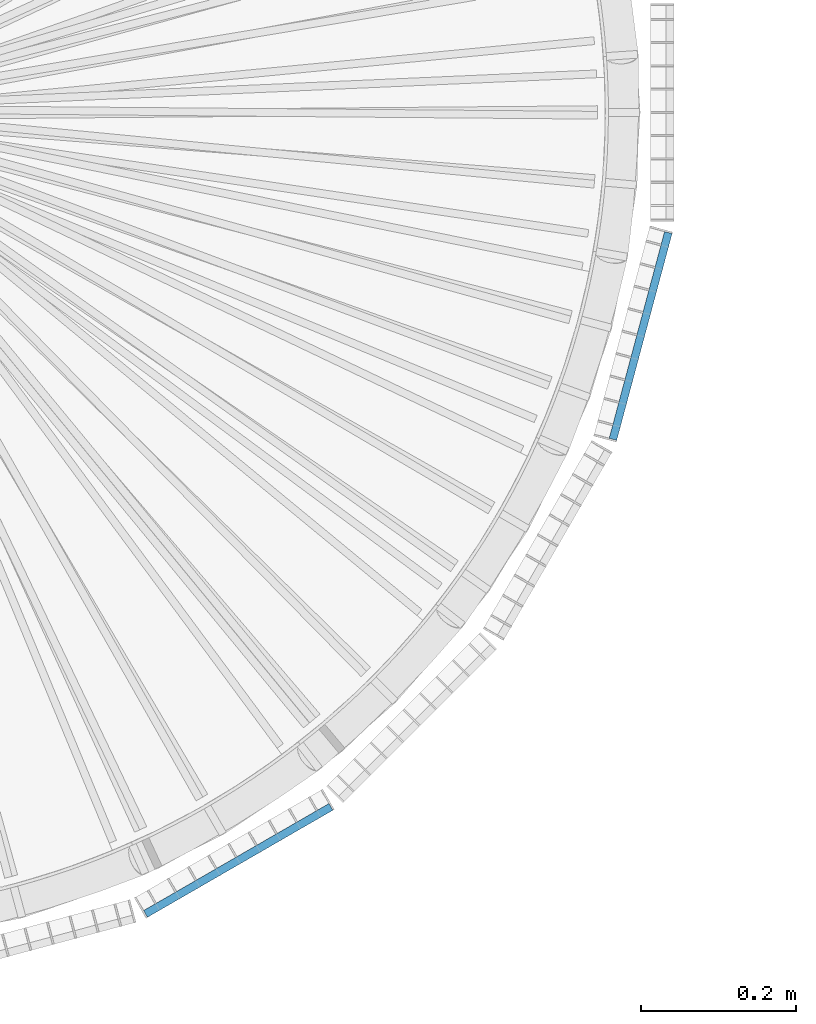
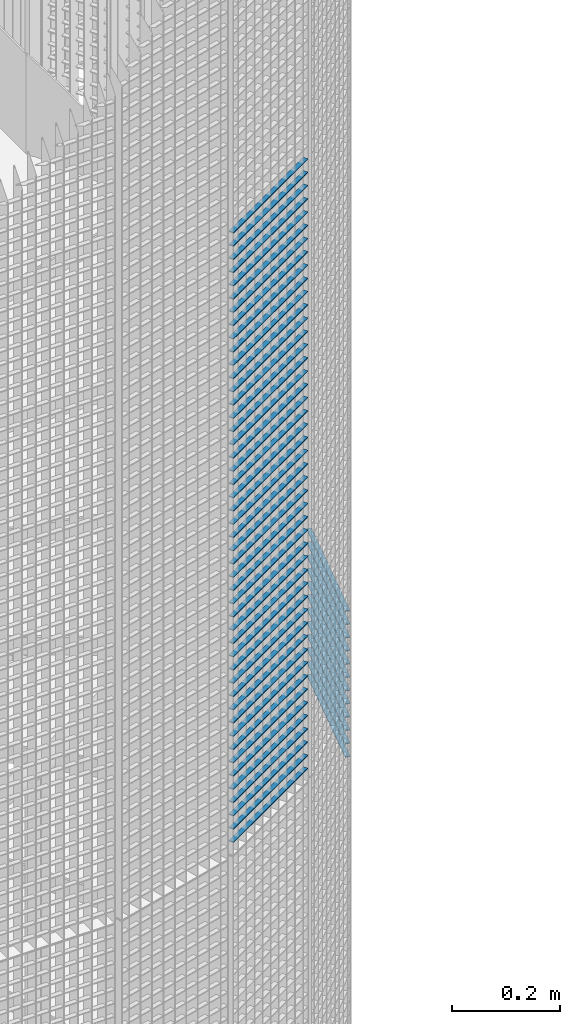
# One storey, part 256 of 1183: 59 beams, 2 elements without a shape of their own.
"""IFC2X3 building model written with IfcOpenShell, lengths in millimetres."""

from ifc_helpers import new_model, si_unit, frame, origin_with_axes, origin_2d_with_axis, place, context, subcontext, project, spatial, rectangle, extrude, material, type_object, element, aggregate, save


model = new_model("IFC2X3")

# Units and contexts
model_context = context("Model", 3, precision=1e-05, world=origin_with_axes())
body_context = subcontext(model_context, "Body", "Model", "MODEL_VIEW")
ifc_project = project(units=[si_unit("LENGTHUNIT", "METRE", prefix="MILLI"), si_unit("AREAUNIT", "SQUARE_METRE"), si_unit("VOLUMEUNIT", "CUBIC_METRE"), si_unit("MASSUNIT", "GRAM", prefix="KILO"), si_unit("TIMEUNIT", "SECOND"), si_unit("PLANEANGLEUNIT", "RADIAN"), si_unit("SOLIDANGLEUNIT", "STERADIAN"), si_unit("THERMODYNAMICTEMPERATUREUNIT", "DEGREE_CELSIUS"), si_unit("LUMINOUSINTENSITYUNIT", "LUMEN")], contexts=[model_context])

# Site, building, storey
site_placement = place(None, origin_with_axes())
site = spatial("IfcSite", under=ifc_project, at=site_placement, Name="Undefined", CompositionType="ELEMENT")
building_placement = place(site_placement, origin_with_axes())
building = spatial("IfcBuilding", under=site, at=building_placement, Name="Undefined", CompositionType="ELEMENT")
storey_placement = place(building_placement, origin_with_axes())
storey = spatial("IfcBuildingStorey", under=building, at=storey_placement, Name="Undefined", CompositionType="ELEMENT", Elevation=0.0)

# Assembly, beams
assembly_1_placement = place(storey_placement, origin_with_axes())
assembly_1 = element("IfcElementAssembly", 1, at=assembly_1_placement, inside=storey, Name="BORDURE", AssemblyPlace="NOTDEFINED", PredefinedType="NOTDEFINED")
ifc_material = material(Name="STEEL/S235JR")
beam_type = type_object("IfcBeamType", Name="PL2*10", PredefinedType="NOTDEFINED")
beam_1_placement = place(assembly_1_placement, frame((437.231955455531, -1033.29996828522, 7410.0), z_axis=(0.499999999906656, -0.866025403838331, 0.0), x_axis=(0.866025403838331, 0.499999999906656, 0.0)))
beam_1 = element("IfcBeam", 2, at=beam_1_placement, type_object=beam_type, material=ifc_material, Name="ENTRETOISE", context=body_context, shape_type="SweptSolid", body=[
    extrude(rectangle(XDim=2.0, YDim=10.0, at=origin_2d_with_axis()), frame((275.999999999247, 9.09494701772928e-13, 1.53210777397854e-14), z_axis=(-1.0, 0.0, 0.0), x_axis=(0.0, -1.0, 0.0)), (0.0, 0.0, 1.0), 276.0),
])
beam_2_placement = place(assembly_1_placement, frame((437.231955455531, -1033.29996828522, 7380.0), z_axis=(0.499999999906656, -0.866025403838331, 0.0), x_axis=(0.866025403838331, 0.499999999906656, 0.0)))
beam_2 = element("IfcBeam", 3, at=beam_2_placement, type_object=beam_type, material=ifc_material, Name="ENTRETOISE", context=body_context, shape_type="SweptSolid", body=[
    extrude(rectangle(XDim=2.0, YDim=10.0, at=origin_2d_with_axis()), frame((275.999999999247, 9.09494701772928e-13, 1.53210777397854e-14), z_axis=(-1.0, 0.0, 0.0), x_axis=(0.0, -1.0, 0.0)), (0.0, 0.0, 1.0), 276.0),
])
beam_3_placement = place(assembly_1_placement, frame((437.231955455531, -1033.29996828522, 7350.0), z_axis=(0.499999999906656, -0.866025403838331, 0.0), x_axis=(0.866025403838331, 0.499999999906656, 0.0)))
beam_3 = element("IfcBeam", 4, at=beam_3_placement, type_object=beam_type, material=ifc_material, Name="ENTRETOISE", context=body_context, shape_type="SweptSolid", body=[
    extrude(rectangle(XDim=2.0, YDim=10.0, at=origin_2d_with_axis()), frame((275.999999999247, 9.09494701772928e-13, 1.53210777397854e-14), z_axis=(-1.0, 0.0, 0.0), x_axis=(0.0, -1.0, 0.0)), (0.0, 0.0, 1.0), 276.0),
])
beam_4_placement = place(assembly_1_placement, frame((437.231955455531, -1033.29996828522, 7320.0), z_axis=(0.499999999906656, -0.866025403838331, 0.0), x_axis=(0.866025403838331, 0.499999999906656, 0.0)))
beam_4 = element("IfcBeam", 5, at=beam_4_placement, type_object=beam_type, material=ifc_material, Name="ENTRETOISE", context=body_context, shape_type="SweptSolid", body=[
    extrude(rectangle(XDim=2.0, YDim=10.0, at=origin_2d_with_axis()), frame((275.999999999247, 9.09494701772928e-13, 1.53210777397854e-14), z_axis=(-1.0, 0.0, 0.0), x_axis=(0.0, -1.0, 0.0)), (0.0, 0.0, 1.0), 276.0),
])
beam_5_placement = place(assembly_1_placement, frame((437.231955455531, -1033.29996828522, 7290.0), z_axis=(0.499999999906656, -0.866025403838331, 0.0), x_axis=(0.866025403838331, 0.499999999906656, 0.0)))
beam_5 = element("IfcBeam", 6, at=beam_5_placement, type_object=beam_type, material=ifc_material, Name="ENTRETOISE", context=body_context, shape_type="SweptSolid", body=[
    extrude(rectangle(XDim=2.0, YDim=10.0, at=origin_2d_with_axis()), frame((275.999999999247, 9.09494701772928e-13, 1.53210777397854e-14), z_axis=(-1.0, 0.0, 0.0), x_axis=(0.0, -1.0, 0.0)), (0.0, 0.0, 1.0), 276.0),
])
beam_6_placement = place(assembly_1_placement, frame((437.231955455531, -1033.29996828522, 7260.0), z_axis=(0.499999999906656, -0.866025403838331, 0.0), x_axis=(0.866025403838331, 0.499999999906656, 0.0)))
beam_6 = element("IfcBeam", 7, at=beam_6_placement, type_object=beam_type, material=ifc_material, Name="ENTRETOISE", context=body_context, shape_type="SweptSolid", body=[
    extrude(rectangle(XDim=2.0, YDim=10.0, at=origin_2d_with_axis()), frame((275.999999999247, 9.09494701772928e-13, 1.53210777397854e-14), z_axis=(-1.0, 0.0, 0.0), x_axis=(0.0, -1.0, 0.0)), (0.0, 0.0, 1.0), 276.0),
])
beam_7_placement = place(assembly_1_placement, frame((437.231955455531, -1033.29996828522, 7230.0), z_axis=(0.499999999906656, -0.866025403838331, 0.0), x_axis=(0.866025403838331, 0.499999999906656, 0.0)))
beam_7 = element("IfcBeam", 8, at=beam_7_placement, type_object=beam_type, material=ifc_material, Name="ENTRETOISE", context=body_context, shape_type="SweptSolid", body=[
    extrude(rectangle(XDim=2.0, YDim=10.0, at=origin_2d_with_axis()), frame((275.999999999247, 9.09494701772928e-13, 1.53210777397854e-14), z_axis=(-1.0, 0.0, 0.0), x_axis=(0.0, -1.0, 0.0)), (0.0, 0.0, 1.0), 276.0),
])
beam_8_placement = place(assembly_1_placement, frame((437.231955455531, -1033.29996828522, 7200.0), z_axis=(0.499999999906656, -0.866025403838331, 0.0), x_axis=(0.866025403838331, 0.499999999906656, 0.0)))
beam_8 = element("IfcBeam", 9, at=beam_8_placement, type_object=beam_type, material=ifc_material, Name="ENTRETOISE", context=body_context, shape_type="SweptSolid", body=[
    extrude(rectangle(XDim=2.0, YDim=10.0, at=origin_2d_with_axis()), frame((275.999999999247, 9.09494701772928e-13, 1.53210777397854e-14), z_axis=(-1.0, 0.0, 0.0), x_axis=(0.0, -1.0, 0.0)), (0.0, 0.0, 1.0), 276.0),
])
beam_9_placement = place(assembly_1_placement, frame((437.231955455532, -1033.29996828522, 7170.0), z_axis=(0.499999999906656, -0.866025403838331, 0.0), x_axis=(0.866025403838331, 0.499999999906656, 0.0)))
beam_9 = element("IfcBeam", 10, at=beam_9_placement, type_object=beam_type, material=ifc_material, Name="ENTRETOISE", context=body_context, shape_type="SweptSolid", body=[
    extrude(rectangle(XDim=2.0, YDim=10.0, at=origin_2d_with_axis()), frame((275.999999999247, 9.09494701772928e-13, 1.53210777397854e-14), z_axis=(-1.0, 0.0, 0.0), x_axis=(0.0, -1.0, 0.0)), (0.0, 0.0, 1.0), 276.0),
])
beam_10_placement = place(assembly_1_placement, frame((437.231955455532, -1033.29996828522, 7140.0), z_axis=(0.499999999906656, -0.866025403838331, 0.0), x_axis=(0.866025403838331, 0.499999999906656, 0.0)))
beam_10 = element("IfcBeam", 11, at=beam_10_placement, type_object=beam_type, material=ifc_material, Name="ENTRETOISE", context=body_context, shape_type="SweptSolid", body=[
    extrude(rectangle(XDim=2.0, YDim=10.0, at=origin_2d_with_axis()), frame((275.999999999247, 9.09494701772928e-13, 1.53210777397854e-14), z_axis=(-1.0, 0.0, 0.0), x_axis=(0.0, -1.0, 0.0)), (0.0, 0.0, 1.0), 276.0),
])
beam_11_placement = place(assembly_1_placement, frame((437.231955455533, -1033.29996828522, 6720.0), z_axis=(0.499999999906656, -0.866025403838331, 0.0), x_axis=(0.866025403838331, 0.499999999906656, 0.0)))
beam_11 = element("IfcBeam", 12, at=beam_11_placement, type_object=beam_type, material=ifc_material, Name="ENTRETOISE", context=body_context, shape_type="SweptSolid", body=[
    extrude(rectangle(XDim=2.0, YDim=10.0, at=origin_2d_with_axis()), frame((275.999999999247, 9.09494701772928e-13, 1.53210777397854e-14), z_axis=(-1.0, 0.0, 0.0), x_axis=(0.0, -1.0, 0.0)), (0.0, 0.0, 1.0), 276.0),
])
beam_12_placement = place(assembly_1_placement, frame((437.231955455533, -1033.29996828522, 6690.0), z_axis=(0.499999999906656, -0.866025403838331, 0.0), x_axis=(0.866025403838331, 0.499999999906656, 0.0)))
beam_12 = element("IfcBeam", 13, at=beam_12_placement, type_object=beam_type, material=ifc_material, Name="ENTRETOISE", context=body_context, shape_type="SweptSolid", body=[
    extrude(rectangle(XDim=2.0, YDim=10.0, at=origin_2d_with_axis()), frame((275.999999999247, 9.09494701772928e-13, 1.53210777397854e-14), z_axis=(-1.0, 0.0, 0.0), x_axis=(0.0, -1.0, 0.0)), (0.0, 0.0, 1.0), 276.0),
])
beam_13_placement = place(assembly_1_placement, frame((437.231955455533, -1033.29996828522, 6750.0), z_axis=(0.499999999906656, -0.866025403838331, 0.0), x_axis=(0.866025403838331, 0.499999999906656, 0.0)))
beam_13 = element("IfcBeam", 14, at=beam_13_placement, type_object=beam_type, material=ifc_material, Name="ENTRETOISE", context=body_context, shape_type="SweptSolid", body=[
    extrude(rectangle(XDim=2.0, YDim=10.0, at=origin_2d_with_axis()), frame((275.999999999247, 9.09494701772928e-13, 1.53210777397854e-14), z_axis=(-1.0, 0.0, 0.0), x_axis=(0.0, -1.0, 0.0)), (0.0, 0.0, 1.0), 276.0),
])
beam_14_placement = place(assembly_1_placement, frame((437.231955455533, -1033.29996828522, 6660.0), z_axis=(0.499999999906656, -0.866025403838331, 0.0), x_axis=(0.866025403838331, 0.499999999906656, 0.0)))
beam_14 = element("IfcBeam", 15, at=beam_14_placement, type_object=beam_type, material=ifc_material, Name="ENTRETOISE", context=body_context, shape_type="SweptSolid", body=[
    extrude(rectangle(XDim=2.0, YDim=10.0, at=origin_2d_with_axis()), frame((275.999999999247, 9.09494701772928e-13, 1.53210777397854e-14), z_axis=(-1.0, 0.0, 0.0), x_axis=(0.0, -1.0, 0.0)), (0.0, 0.0, 1.0), 276.0),
])
beam_15_placement = place(assembly_1_placement, frame((437.231955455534, -1033.29996828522, 6630.0), z_axis=(0.499999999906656, -0.866025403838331, 0.0), x_axis=(0.866025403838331, 0.499999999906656, 0.0)))
beam_15 = element("IfcBeam", 16, at=beam_15_placement, type_object=beam_type, material=ifc_material, Name="ENTRETOISE", context=body_context, shape_type="SweptSolid", body=[
    extrude(rectangle(XDim=2.0, YDim=10.0, at=origin_2d_with_axis()), frame((275.999999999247, 9.09494701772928e-13, 1.53210777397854e-14), z_axis=(-1.0, 0.0, 0.0), x_axis=(0.0, -1.0, 0.0)), (0.0, 0.0, 1.0), 276.0),
])
beam_16_placement = place(assembly_1_placement, frame((437.231955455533, -1033.29996828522, 6780.0), z_axis=(0.499999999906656, -0.866025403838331, 0.0), x_axis=(0.866025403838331, 0.499999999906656, 0.0)))
beam_16 = element("IfcBeam", 17, at=beam_16_placement, type_object=beam_type, material=ifc_material, Name="ENTRETOISE", context=body_context, shape_type="SweptSolid", body=[
    extrude(rectangle(XDim=2.0, YDim=10.0, at=origin_2d_with_axis()), frame((275.999999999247, 9.09494701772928e-13, 1.53210777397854e-14), z_axis=(-1.0, 0.0, 0.0), x_axis=(0.0, -1.0, 0.0)), (0.0, 0.0, 1.0), 276.0),
])
beam_17_placement = place(assembly_1_placement, frame((437.231955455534, -1033.29996828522, 6600.0), z_axis=(0.499999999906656, -0.866025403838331, 0.0), x_axis=(0.866025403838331, 0.499999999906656, 0.0)))
beam_17 = element("IfcBeam", 18, at=beam_17_placement, type_object=beam_type, material=ifc_material, Name="ENTRETOISE", context=body_context, shape_type="SweptSolid", body=[
    extrude(rectangle(XDim=2.0, YDim=10.0, at=origin_2d_with_axis()), frame((275.999999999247, 9.09494701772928e-13, 1.53210777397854e-14), z_axis=(-1.0, 0.0, 0.0), x_axis=(0.0, -1.0, 0.0)), (0.0, 0.0, 1.0), 276.0),
])
beam_18_placement = place(assembly_1_placement, frame((437.231955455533, -1033.29996828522, 6810.0), z_axis=(0.499999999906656, -0.866025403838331, 0.0), x_axis=(0.866025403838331, 0.499999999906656, 0.0)))
beam_18 = element("IfcBeam", 19, at=beam_18_placement, type_object=beam_type, material=ifc_material, Name="ENTRETOISE", context=body_context, shape_type="SweptSolid", body=[
    extrude(rectangle(XDim=2.0, YDim=10.0, at=origin_2d_with_axis()), frame((275.999999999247, 9.09494701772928e-13, 1.53210777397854e-14), z_axis=(-1.0, 0.0, 0.0), x_axis=(0.0, -1.0, 0.0)), (0.0, 0.0, 1.0), 276.0),
])
beam_19_placement = place(assembly_1_placement, frame((437.231955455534, -1033.29996828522, 6570.0), z_axis=(0.499999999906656, -0.866025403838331, 0.0), x_axis=(0.866025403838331, 0.499999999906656, 0.0)))
beam_19 = element("IfcBeam", 20, at=beam_19_placement, type_object=beam_type, material=ifc_material, Name="ENTRETOISE", context=body_context, shape_type="SweptSolid", body=[
    extrude(rectangle(XDim=2.0, YDim=10.0, at=origin_2d_with_axis()), frame((275.999999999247, 9.09494701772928e-13, 1.53210777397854e-14), z_axis=(-1.0, 0.0, 0.0), x_axis=(0.0, -1.0, 0.0)), (0.0, 0.0, 1.0), 276.0),
])
beam_20_placement = place(assembly_1_placement, frame((437.231955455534, -1033.29996828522, 6540.0), z_axis=(0.499999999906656, -0.866025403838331, 0.0), x_axis=(0.866025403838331, 0.499999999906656, 0.0)))
beam_20 = element("IfcBeam", 21, at=beam_20_placement, type_object=beam_type, material=ifc_material, Name="ENTRETOISE", context=body_context, shape_type="SweptSolid", body=[
    extrude(rectangle(XDim=2.0, YDim=10.0, at=origin_2d_with_axis()), frame((275.999999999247, 9.09494701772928e-13, 1.53210777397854e-14), z_axis=(-1.0, 0.0, 0.0), x_axis=(0.0, -1.0, 0.0)), (0.0, 0.0, 1.0), 276.0),
])
beam_21_placement = place(assembly_1_placement, frame((437.231955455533, -1033.29996828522, 6840.0), z_axis=(0.499999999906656, -0.866025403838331, 0.0), x_axis=(0.866025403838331, 0.499999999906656, 0.0)))
beam_21 = element("IfcBeam", 22, at=beam_21_placement, type_object=beam_type, material=ifc_material, Name="ENTRETOISE", context=body_context, shape_type="SweptSolid", body=[
    extrude(rectangle(XDim=2.0, YDim=10.0, at=origin_2d_with_axis()), frame((275.999999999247, 9.09494701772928e-13, 1.53210777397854e-14), z_axis=(-1.0, 0.0, 0.0), x_axis=(0.0, -1.0, 0.0)), (0.0, 0.0, 1.0), 276.0),
])
beam_22_placement = place(assembly_1_placement, frame((437.231955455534, -1033.29996828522, 6510.0), z_axis=(0.499999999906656, -0.866025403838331, 0.0), x_axis=(0.866025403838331, 0.499999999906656, 0.0)))
beam_22 = element("IfcBeam", 23, at=beam_22_placement, type_object=beam_type, material=ifc_material, Name="ENTRETOISE", context=body_context, shape_type="SweptSolid", body=[
    extrude(rectangle(XDim=2.0, YDim=10.0, at=origin_2d_with_axis()), frame((275.999999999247, 9.09494701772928e-13, 1.53210777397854e-14), z_axis=(-1.0, 0.0, 0.0), x_axis=(0.0, -1.0, 0.0)), (0.0, 0.0, 1.0), 276.0),
])
beam_23_placement = place(assembly_1_placement, frame((437.231955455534, -1033.29996828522, 6480.0), z_axis=(0.499999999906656, -0.866025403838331, 0.0), x_axis=(0.866025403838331, 0.499999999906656, 0.0)))
beam_23 = element("IfcBeam", 24, at=beam_23_placement, type_object=beam_type, material=ifc_material, Name="ENTRETOISE", context=body_context, shape_type="SweptSolid", body=[
    extrude(rectangle(XDim=2.0, YDim=10.0, at=origin_2d_with_axis()), frame((275.999999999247, 9.09494701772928e-13, 1.53210777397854e-14), z_axis=(-1.0, 0.0, 0.0), x_axis=(0.0, -1.0, 0.0)), (0.0, 0.0, 1.0), 276.0),
])
beam_24_placement = place(assembly_1_placement, frame((437.231955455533, -1033.29996828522, 6870.0), z_axis=(0.499999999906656, -0.866025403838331, 0.0), x_axis=(0.866025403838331, 0.499999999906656, 0.0)))
beam_24 = element("IfcBeam", 25, at=beam_24_placement, type_object=beam_type, material=ifc_material, Name="ENTRETOISE", context=body_context, shape_type="SweptSolid", body=[
    extrude(rectangle(XDim=2.0, YDim=10.0, at=origin_2d_with_axis()), frame((275.999999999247, 9.09494701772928e-13, 1.53210777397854e-14), z_axis=(-1.0, 0.0, 0.0), x_axis=(0.0, -1.0, 0.0)), (0.0, 0.0, 1.0), 276.0),
])
beam_25_placement = place(assembly_1_placement, frame((437.231955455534, -1033.29996828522, 6450.0), z_axis=(0.499999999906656, -0.866025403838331, 0.0), x_axis=(0.866025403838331, 0.499999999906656, 0.0)))
beam_25 = element("IfcBeam", 26, at=beam_25_placement, type_object=beam_type, material=ifc_material, Name="ENTRETOISE", context=body_context, shape_type="SweptSolid", body=[
    extrude(rectangle(XDim=2.0, YDim=10.0, at=origin_2d_with_axis()), frame((275.999999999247, 9.09494701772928e-13, 1.53210777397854e-14), z_axis=(-1.0, 0.0, 0.0), x_axis=(0.0, -1.0, 0.0)), (0.0, 0.0, 1.0), 276.0),
])
beam_26_placement = place(assembly_1_placement, frame((437.231955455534, -1033.29996828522, 6420.0), z_axis=(0.499999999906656, -0.866025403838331, 0.0), x_axis=(0.866025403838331, 0.499999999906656, 0.0)))
beam_26 = element("IfcBeam", 27, at=beam_26_placement, type_object=beam_type, material=ifc_material, Name="ENTRETOISE", context=body_context, shape_type="SweptSolid", body=[
    extrude(rectangle(XDim=2.0, YDim=10.0, at=origin_2d_with_axis()), frame((275.999999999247, 9.09494701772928e-13, 1.53210777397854e-14), z_axis=(-1.0, 0.0, 0.0), x_axis=(0.0, -1.0, 0.0)), (0.0, 0.0, 1.0), 276.0),
])
beam_27_placement = place(assembly_1_placement, frame((437.231955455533, -1033.29996828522, 6900.0), z_axis=(0.499999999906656, -0.866025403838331, 0.0), x_axis=(0.866025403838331, 0.499999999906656, 0.0)))
beam_27 = element("IfcBeam", 28, at=beam_27_placement, type_object=beam_type, material=ifc_material, Name="ENTRETOISE", context=body_context, shape_type="SweptSolid", body=[
    extrude(rectangle(XDim=2.0, YDim=10.0, at=origin_2d_with_axis()), frame((275.999999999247, 9.09494701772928e-13, 1.53210777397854e-14), z_axis=(-1.0, 0.0, 0.0), x_axis=(0.0, -1.0, 0.0)), (0.0, 0.0, 1.0), 276.0),
])
beam_28_placement = place(assembly_1_placement, frame((437.231955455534, -1033.29996828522, 6390.0), z_axis=(0.499999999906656, -0.866025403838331, 0.0), x_axis=(0.866025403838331, 0.499999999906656, 0.0)))
beam_28 = element("IfcBeam", 29, at=beam_28_placement, type_object=beam_type, material=ifc_material, Name="ENTRETOISE", context=body_context, shape_type="SweptSolid", body=[
    extrude(rectangle(XDim=2.0, YDim=10.0, at=origin_2d_with_axis()), frame((275.999999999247, 9.09494701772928e-13, 1.53210777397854e-14), z_axis=(-1.0, 0.0, 0.0), x_axis=(0.0, -1.0, 0.0)), (0.0, 0.0, 1.0), 276.0),
])
beam_29_placement = place(assembly_1_placement, frame((437.231955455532, -1033.29996828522, 6930.0), z_axis=(0.499999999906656, -0.866025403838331, 0.0), x_axis=(0.866025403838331, 0.499999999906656, 0.0)))
beam_29 = element("IfcBeam", 30, at=beam_29_placement, type_object=beam_type, material=ifc_material, Name="ENTRETOISE", context=body_context, shape_type="SweptSolid", body=[
    extrude(rectangle(XDim=2.0, YDim=10.0, at=origin_2d_with_axis()), frame((275.999999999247, 9.09494701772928e-13, 1.53210777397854e-14), z_axis=(-1.0, 0.0, 0.0), x_axis=(0.0, -1.0, 0.0)), (0.0, 0.0, 1.0), 276.0),
])
beam_30_placement = place(assembly_1_placement, frame((437.231955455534, -1033.29996828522, 6360.0), z_axis=(0.499999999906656, -0.866025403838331, 0.0), x_axis=(0.866025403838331, 0.499999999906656, 0.0)))
beam_30 = element("IfcBeam", 31, at=beam_30_placement, type_object=beam_type, material=ifc_material, Name="ENTRETOISE", context=body_context, shape_type="SweptSolid", body=[
    extrude(rectangle(XDim=2.0, YDim=10.0, at=origin_2d_with_axis()), frame((275.999999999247, 9.09494701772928e-13, 1.53210777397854e-14), z_axis=(-1.0, 0.0, 0.0), x_axis=(0.0, -1.0, 0.0)), (0.0, 0.0, 1.0), 276.0),
])
beam_31_placement = place(assembly_1_placement, frame((437.231955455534, -1033.29996828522, 6330.0), z_axis=(0.499999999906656, -0.866025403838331, 0.0), x_axis=(0.866025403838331, 0.499999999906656, 0.0)))
beam_31 = element("IfcBeam", 32, at=beam_31_placement, type_object=beam_type, material=ifc_material, Name="ENTRETOISE", context=body_context, shape_type="SweptSolid", body=[
    extrude(rectangle(XDim=2.0, YDim=10.0, at=origin_2d_with_axis()), frame((275.999999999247, 9.09494701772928e-13, 1.53210777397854e-14), z_axis=(-1.0, 0.0, 0.0), x_axis=(0.0, -1.0, 0.0)), (0.0, 0.0, 1.0), 276.0),
])
beam_32_placement = place(assembly_1_placement, frame((437.231955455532, -1033.29996828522, 6960.0), z_axis=(0.499999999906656, -0.866025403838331, 0.0), x_axis=(0.866025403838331, 0.499999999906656, 0.0)))
beam_32 = element("IfcBeam", 33, at=beam_32_placement, type_object=beam_type, material=ifc_material, Name="ENTRETOISE", context=body_context, shape_type="SweptSolid", body=[
    extrude(rectangle(XDim=2.0, YDim=10.0, at=origin_2d_with_axis()), frame((275.999999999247, 9.09494701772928e-13, 1.53210777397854e-14), z_axis=(-1.0, 0.0, 0.0), x_axis=(0.0, -1.0, 0.0)), (0.0, 0.0, 1.0), 276.0),
])
beam_33_placement = place(assembly_1_placement, frame((437.231955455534, -1033.29996828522, 6300.0), z_axis=(0.499999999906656, -0.866025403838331, 0.0), x_axis=(0.866025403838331, 0.499999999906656, 0.0)))
beam_33 = element("IfcBeam", 34, at=beam_33_placement, type_object=beam_type, material=ifc_material, Name="ENTRETOISE", context=body_context, shape_type="SweptSolid", body=[
    extrude(rectangle(XDim=2.0, YDim=10.0, at=origin_2d_with_axis()), frame((275.999999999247, 9.09494701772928e-13, 1.53210777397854e-14), z_axis=(-1.0, 0.0, 0.0), x_axis=(0.0, -1.0, 0.0)), (0.0, 0.0, 1.0), 276.0),
])
beam_34_placement = place(assembly_1_placement, frame((437.231955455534, -1033.29996828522, 6270.0), z_axis=(0.499999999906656, -0.866025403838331, 0.0), x_axis=(0.866025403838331, 0.499999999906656, 0.0)))
beam_34 = element("IfcBeam", 35, at=beam_34_placement, type_object=beam_type, material=ifc_material, Name="ENTRETOISE", context=body_context, shape_type="SweptSolid", body=[
    extrude(rectangle(XDim=2.0, YDim=10.0, at=origin_2d_with_axis()), frame((275.999999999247, 9.09494701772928e-13, 1.53210777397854e-14), z_axis=(-1.0, 0.0, 0.0), x_axis=(0.0, -1.0, 0.0)), (0.0, 0.0, 1.0), 276.0),
])
beam_35_placement = place(assembly_1_placement, frame((437.231955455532, -1033.29996828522, 6990.0), z_axis=(0.499999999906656, -0.866025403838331, 0.0), x_axis=(0.866025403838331, 0.499999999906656, 0.0)))
beam_35 = element("IfcBeam", 36, at=beam_35_placement, type_object=beam_type, material=ifc_material, Name="ENTRETOISE", context=body_context, shape_type="SweptSolid", body=[
    extrude(rectangle(XDim=2.0, YDim=10.0, at=origin_2d_with_axis()), frame((275.999999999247, 9.09494701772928e-13, 1.53210777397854e-14), z_axis=(-1.0, 0.0, 0.0), x_axis=(0.0, -1.0, 0.0)), (0.0, 0.0, 1.0), 276.0),
])
beam_36_placement = place(assembly_1_placement, frame((437.231955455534, -1033.29996828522, 6240.0), z_axis=(0.499999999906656, -0.866025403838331, 0.0), x_axis=(0.866025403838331, 0.499999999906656, 0.0)))
beam_36 = element("IfcBeam", 37, at=beam_36_placement, type_object=beam_type, material=ifc_material, Name="ENTRETOISE", context=body_context, shape_type="SweptSolid", body=[
    extrude(rectangle(XDim=2.0, YDim=10.0, at=origin_2d_with_axis()), frame((275.999999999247, 9.09494701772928e-13, 1.53210777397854e-14), z_axis=(-1.0, 0.0, 0.0), x_axis=(0.0, -1.0, 0.0)), (0.0, 0.0, 1.0), 276.0),
])
beam_37_placement = place(assembly_1_placement, frame((437.231955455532, -1033.29996828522, 7020.0), z_axis=(0.499999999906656, -0.866025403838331, 0.0), x_axis=(0.866025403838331, 0.499999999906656, 0.0)))
beam_37 = element("IfcBeam", 38, at=beam_37_placement, type_object=beam_type, material=ifc_material, Name="ENTRETOISE", context=body_context, shape_type="SweptSolid", body=[
    extrude(rectangle(XDim=2.0, YDim=10.0, at=origin_2d_with_axis()), frame((275.999999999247, 9.09494701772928e-13, 1.53210777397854e-14), z_axis=(-1.0, 0.0, 0.0), x_axis=(0.0, -1.0, 0.0)), (0.0, 0.0, 1.0), 276.0),
])
beam_38_placement = place(assembly_1_placement, frame((437.231955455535, -1033.29996828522, 6210.0), z_axis=(0.499999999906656, -0.866025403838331, 0.0), x_axis=(0.866025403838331, 0.499999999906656, 0.0)))
beam_38 = element("IfcBeam", 39, at=beam_38_placement, type_object=beam_type, material=ifc_material, Name="ENTRETOISE", context=body_context, shape_type="SweptSolid", body=[
    extrude(rectangle(XDim=2.0, YDim=10.0, at=origin_2d_with_axis()), frame((275.999999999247, 9.09494701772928e-13, 1.53210777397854e-14), z_axis=(-1.0, 0.0, 0.0), x_axis=(0.0, -1.0, 0.0)), (0.0, 0.0, 1.0), 276.0),
])
beam_39_placement = place(assembly_1_placement, frame((437.231955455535, -1033.29996828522, 6180.0), z_axis=(0.499999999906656, -0.866025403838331, 0.0), x_axis=(0.866025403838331, 0.499999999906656, 0.0)))
beam_39 = element("IfcBeam", 40, at=beam_39_placement, type_object=beam_type, material=ifc_material, Name="ENTRETOISE", context=body_context, shape_type="SweptSolid", body=[
    extrude(rectangle(XDim=2.0, YDim=10.0, at=origin_2d_with_axis()), frame((275.999999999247, 9.09494701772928e-13, 1.53210777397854e-14), z_axis=(-1.0, 0.0, 0.0), x_axis=(0.0, -1.0, 0.0)), (0.0, 0.0, 1.0), 276.0),
])
beam_40_placement = place(assembly_1_placement, frame((437.231955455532, -1033.29996828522, 7050.0), z_axis=(0.499999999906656, -0.866025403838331, 0.0), x_axis=(0.866025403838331, 0.499999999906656, 0.0)))
beam_40 = element("IfcBeam", 41, at=beam_40_placement, type_object=beam_type, material=ifc_material, Name="ENTRETOISE", context=body_context, shape_type="SweptSolid", body=[
    extrude(rectangle(XDim=2.0, YDim=10.0, at=origin_2d_with_axis()), frame((275.999999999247, 9.09494701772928e-13, 1.53210777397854e-14), z_axis=(-1.0, 0.0, 0.0), x_axis=(0.0, -1.0, 0.0)), (0.0, 0.0, 1.0), 276.0),
])
beam_41_placement = place(assembly_1_placement, frame((437.231955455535, -1033.29996828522, 6150.0), z_axis=(0.499999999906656, -0.866025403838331, 0.0), x_axis=(0.866025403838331, 0.499999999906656, 0.0)))
beam_41 = element("IfcBeam", 42, at=beam_41_placement, type_object=beam_type, material=ifc_material, Name="ENTRETOISE", context=body_context, shape_type="SweptSolid", body=[
    extrude(rectangle(XDim=2.0, YDim=10.0, at=origin_2d_with_axis()), frame((275.999999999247, 9.09494701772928e-13, 1.53210777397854e-14), z_axis=(-1.0, 0.0, 0.0), x_axis=(0.0, -1.0, 0.0)), (0.0, 0.0, 1.0), 276.0),
])
beam_42_placement = place(assembly_1_placement, frame((437.231955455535, -1033.29996828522, 6120.0), z_axis=(0.499999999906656, -0.866025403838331, 0.0), x_axis=(0.866025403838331, 0.499999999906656, 0.0)))
beam_42 = element("IfcBeam", 43, at=beam_42_placement, type_object=beam_type, material=ifc_material, Name="ENTRETOISE", context=body_context, shape_type="SweptSolid", body=[
    extrude(rectangle(XDim=2.0, YDim=10.0, at=origin_2d_with_axis()), frame((275.999999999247, 9.09494701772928e-13, 1.53210777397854e-14), z_axis=(-1.0, 0.0, 0.0), x_axis=(0.0, -1.0, 0.0)), (0.0, 0.0, 1.0), 276.0),
])
beam_43_placement = place(assembly_1_placement, frame((437.231955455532, -1033.29996828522, 7080.0), z_axis=(0.499999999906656, -0.866025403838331, 0.0), x_axis=(0.866025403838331, 0.499999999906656, 0.0)))
beam_43 = element("IfcBeam", 44, at=beam_43_placement, type_object=beam_type, material=ifc_material, Name="ENTRETOISE", context=body_context, shape_type="SweptSolid", body=[
    extrude(rectangle(XDim=2.0, YDim=10.0, at=origin_2d_with_axis()), frame((275.999999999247, 9.09494701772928e-13, 1.53210777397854e-14), z_axis=(-1.0, 0.0, 0.0), x_axis=(0.0, -1.0, 0.0)), (0.0, 0.0, 1.0), 276.0),
])
beam_44_placement = place(assembly_1_placement, frame((437.231955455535, -1033.29996828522, 6090.0), z_axis=(0.499999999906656, -0.866025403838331, 0.0), x_axis=(0.866025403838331, 0.499999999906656, 0.0)))
beam_44 = element("IfcBeam", 45, at=beam_44_placement, type_object=beam_type, material=ifc_material, Name="ENTRETOISE", context=body_context, shape_type="SweptSolid", body=[
    extrude(rectangle(XDim=2.0, YDim=10.0, at=origin_2d_with_axis()), frame((275.999999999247, 9.09494701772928e-13, 1.53210777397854e-14), z_axis=(-1.0, 0.0, 0.0), x_axis=(0.0, -1.0, 0.0)), (0.0, 0.0, 1.0), 276.0),
])
beam_45_placement = place(assembly_1_placement, frame((437.231955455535, -1033.29996828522, 6060.0), z_axis=(0.499999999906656, -0.866025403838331, 0.0), x_axis=(0.866025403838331, 0.499999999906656, 0.0)))
beam_45 = element("IfcBeam", 46, at=beam_45_placement, type_object=beam_type, material=ifc_material, Name="ENTRETOISE", context=body_context, shape_type="SweptSolid", body=[
    extrude(rectangle(XDim=2.0, YDim=10.0, at=origin_2d_with_axis()), frame((275.999999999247, 9.09494701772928e-13, 1.53210777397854e-14), z_axis=(-1.0, 0.0, 0.0), x_axis=(0.0, -1.0, 0.0)), (0.0, 0.0, 1.0), 276.0),
])
beam_46_placement = place(assembly_1_placement, frame((437.231955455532, -1033.29996828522, 7110.0), z_axis=(0.499999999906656, -0.866025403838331, 0.0), x_axis=(0.866025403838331, 0.499999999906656, 0.0)))
beam_46 = element("IfcBeam", 47, at=beam_46_placement, type_object=beam_type, material=ifc_material, Name="ENTRETOISE", context=body_context, shape_type="SweptSolid", body=[
    extrude(rectangle(XDim=2.0, YDim=10.0, at=origin_2d_with_axis()), frame((275.999999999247, 9.09494701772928e-13, 1.53210777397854e-14), z_axis=(-1.0, 0.0, 0.0), x_axis=(0.0, -1.0, 0.0)), (0.0, 0.0, 1.0), 276.0),
])
beam_47_placement = place(assembly_1_placement, frame((437.231955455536, -1033.29996828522, 6030.0), z_axis=(0.499999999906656, -0.866025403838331, 0.0), x_axis=(0.866025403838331, 0.499999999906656, 0.0)))
beam_47 = element("IfcBeam", 48, at=beam_47_placement, type_object=beam_type, material=ifc_material, Name="ENTRETOISE", context=body_context, shape_type="SweptSolid", body=[
    extrude(rectangle(XDim=2.0, YDim=10.0, at=origin_2d_with_axis()), frame((275.999999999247, 9.09494701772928e-13, 1.53210777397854e-14), z_axis=(-1.0, 0.0, 0.0), x_axis=(0.0, -1.0, 0.0)), (0.0, 0.0, 1.0), 276.0),
])
aggregate(assembly_1, [beam_1, beam_2, beam_3, beam_4, beam_5, beam_6, beam_7, beam_8, beam_9, beam_10, beam_11, beam_12, beam_13, beam_14, beam_15, beam_16, beam_17, beam_18, beam_19, beam_20, beam_21, beam_22, beam_23, beam_24, beam_25, beam_26, beam_27, beam_28, beam_29, beam_30, beam_31, beam_32, beam_33, beam_34, beam_35, beam_36, beam_37, beam_38, beam_39, beam_40, beam_41, beam_42, beam_43, beam_44, beam_45, beam_46, beam_47])

assembly_2_placement = place(storey_placement, origin_with_axes())
assembly_2 = element("IfcElementAssembly", 49, at=assembly_2_placement, inside=storey, Name="BORDURE", AssemblyPlace="NOTDEFINED", PredefinedType="NOTDEFINED")
beam_48_placement = place(assembly_2_placement, frame((1039.82309522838, -421.483733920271, 5970.0), z_axis=(0.965925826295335, -0.258819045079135, 0.0), x_axis=(0.258819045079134, 0.965925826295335, 0.0)))
beam_48 = element("IfcBeam", 50, at=beam_48_placement, type_object=beam_type, material=ifc_material, Name="ENTRETOISE", context=body_context, shape_type="SweptSolid", body=[
    extrude(rectangle(XDim=2.0, YDim=10.0, at=origin_2d_with_axis()), frame((275.999999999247, 9.09494701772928e-13, 1.53210777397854e-14), z_axis=(-1.0, 0.0, 0.0), x_axis=(0.0, -1.0, 0.0)), (0.0, 0.0, 1.0), 276.0),
])
beam_49_placement = place(assembly_2_placement, frame((1039.82309522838, -421.483733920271, 5940.0), z_axis=(0.965925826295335, -0.258819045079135, 0.0), x_axis=(0.258819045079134, 0.965925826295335, 0.0)))
beam_49 = element("IfcBeam", 51, at=beam_49_placement, type_object=beam_type, material=ifc_material, Name="ENTRETOISE", context=body_context, shape_type="SweptSolid", body=[
    extrude(rectangle(XDim=2.0, YDim=10.0, at=origin_2d_with_axis()), frame((275.999999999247, 9.09494701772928e-13, 1.53210777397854e-14), z_axis=(-1.0, 0.0, 0.0), x_axis=(0.0, -1.0, 0.0)), (0.0, 0.0, 1.0), 276.0),
])
beam_50_placement = place(assembly_2_placement, frame((1039.82309522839, -421.483733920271, 5910.0), z_axis=(0.965925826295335, -0.258819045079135, 0.0), x_axis=(0.258819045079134, 0.965925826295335, 0.0)))
beam_50 = element("IfcBeam", 52, at=beam_50_placement, type_object=beam_type, material=ifc_material, Name="ENTRETOISE", context=body_context, shape_type="SweptSolid", body=[
    extrude(rectangle(XDim=2.0, YDim=10.0, at=origin_2d_with_axis()), frame((275.999999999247, 9.09494701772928e-13, 1.53210777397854e-14), z_axis=(-1.0, 0.0, 0.0), x_axis=(0.0, -1.0, 0.0)), (0.0, 0.0, 1.0), 276.0),
])
beam_51_placement = place(assembly_2_placement, frame((1039.82309522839, -421.483733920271, 5880.0), z_axis=(0.965925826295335, -0.258819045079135, 0.0), x_axis=(0.258819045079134, 0.965925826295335, 0.0)))
beam_51 = element("IfcBeam", 53, at=beam_51_placement, type_object=beam_type, material=ifc_material, Name="ENTRETOISE", context=body_context, shape_type="SweptSolid", body=[
    extrude(rectangle(XDim=2.0, YDim=10.0, at=origin_2d_with_axis()), frame((275.999999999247, 9.09494701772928e-13, 1.53210777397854e-14), z_axis=(-1.0, 0.0, 0.0), x_axis=(0.0, -1.0, 0.0)), (0.0, 0.0, 1.0), 276.0),
])
beam_52_placement = place(assembly_2_placement, frame((1039.82309522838, -421.483733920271, 5850.0), z_axis=(0.965925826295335, -0.258819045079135, 0.0), x_axis=(0.258819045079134, 0.965925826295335, 0.0)))
beam_52 = element("IfcBeam", 54, at=beam_52_placement, type_object=beam_type, material=ifc_material, Name="ENTRETOISE", context=body_context, shape_type="SweptSolid", body=[
    extrude(rectangle(XDim=2.0, YDim=10.0, at=origin_2d_with_axis()), frame((275.999999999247, 9.09494701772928e-13, 1.53210777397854e-14), z_axis=(-1.0, 0.0, 0.0), x_axis=(0.0, -1.0, 0.0)), (0.0, 0.0, 1.0), 276.0),
])
beam_53_placement = place(assembly_2_placement, frame((1039.82309522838, -421.483733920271, 5820.0), z_axis=(0.965925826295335, -0.258819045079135, 0.0), x_axis=(0.258819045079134, 0.965925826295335, 0.0)))
beam_53 = element("IfcBeam", 55, at=beam_53_placement, type_object=beam_type, material=ifc_material, Name="ENTRETOISE", context=body_context, shape_type="SweptSolid", body=[
    extrude(rectangle(XDim=2.0, YDim=10.0, at=origin_2d_with_axis()), frame((275.999999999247, 9.09494701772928e-13, 1.53210777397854e-14), z_axis=(-1.0, 0.0, 0.0), x_axis=(0.0, -1.0, 0.0)), (0.0, 0.0, 1.0), 276.0),
])
beam_54_placement = place(assembly_2_placement, frame((1039.82309522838, -421.483733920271, 5790.0), z_axis=(0.965925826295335, -0.258819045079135, 0.0), x_axis=(0.258819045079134, 0.965925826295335, 0.0)))
beam_54 = element("IfcBeam", 56, at=beam_54_placement, type_object=beam_type, material=ifc_material, Name="ENTRETOISE", context=body_context, shape_type="SweptSolid", body=[
    extrude(rectangle(XDim=2.0, YDim=10.0, at=origin_2d_with_axis()), frame((275.999999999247, 9.09494701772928e-13, 1.53210777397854e-14), z_axis=(-1.0, 0.0, 0.0), x_axis=(0.0, -1.0, 0.0)), (0.0, 0.0, 1.0), 276.0),
])
beam_55_placement = place(assembly_2_placement, frame((1039.82309522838, -421.483733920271, 5760.0), z_axis=(0.965925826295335, -0.258819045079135, 0.0), x_axis=(0.258819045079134, 0.965925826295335, 0.0)))
beam_55 = element("IfcBeam", 57, at=beam_55_placement, type_object=beam_type, material=ifc_material, Name="ENTRETOISE", context=body_context, shape_type="SweptSolid", body=[
    extrude(rectangle(XDim=2.0, YDim=10.0, at=origin_2d_with_axis()), frame((275.999999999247, 9.09494701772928e-13, 1.53210777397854e-14), z_axis=(-1.0, 0.0, 0.0), x_axis=(0.0, -1.0, 0.0)), (0.0, 0.0, 1.0), 276.0),
])
beam_56_placement = place(assembly_2_placement, frame((1039.82309522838, -421.48373392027, 5730.0), z_axis=(0.965925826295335, -0.258819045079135, 0.0), x_axis=(0.258819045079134, 0.965925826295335, 0.0)))
beam_56 = element("IfcBeam", 58, at=beam_56_placement, type_object=beam_type, material=ifc_material, Name="ENTRETOISE", context=body_context, shape_type="SweptSolid", body=[
    extrude(rectangle(XDim=2.0, YDim=10.0, at=origin_2d_with_axis()), frame((275.999999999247, 9.09494701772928e-13, 1.53210777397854e-14), z_axis=(-1.0, 0.0, 0.0), x_axis=(0.0, -1.0, 0.0)), (0.0, 0.0, 1.0), 276.0),
])
beam_57_placement = place(assembly_2_placement, frame((1039.82309522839, -421.48373392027, 5700.0), z_axis=(0.965925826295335, -0.258819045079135, 0.0), x_axis=(0.258819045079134, 0.965925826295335, 0.0)))
beam_57 = element("IfcBeam", 59, at=beam_57_placement, type_object=beam_type, material=ifc_material, Name="ENTRETOISE", context=body_context, shape_type="SweptSolid", body=[
    extrude(rectangle(XDim=2.0, YDim=10.0, at=origin_2d_with_axis()), frame((275.999999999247, 9.09494701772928e-13, 1.53210777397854e-14), z_axis=(-1.0, 0.0, 0.0), x_axis=(0.0, -1.0, 0.0)), (0.0, 0.0, 1.0), 276.0),
])
beam_58_placement = place(assembly_2_placement, frame((1039.82309522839, -421.48373392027, 5670.0), z_axis=(0.965925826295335, -0.258819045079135, 0.0), x_axis=(0.258819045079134, 0.965925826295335, 0.0)))
beam_58 = element("IfcBeam", 60, at=beam_58_placement, type_object=beam_type, material=ifc_material, Name="ENTRETOISE", context=body_context, shape_type="SweptSolid", body=[
    extrude(rectangle(XDim=2.0, YDim=10.0, at=origin_2d_with_axis()), frame((275.999999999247, 9.09494701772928e-13, 1.53210777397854e-14), z_axis=(-1.0, 0.0, 0.0), x_axis=(0.0, -1.0, 0.0)), (0.0, 0.0, 1.0), 276.0),
])
beam_59_placement = place(assembly_2_placement, frame((1039.82309522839, -421.48373392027, 5640.0), z_axis=(0.965925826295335, -0.258819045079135, 0.0), x_axis=(0.258819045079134, 0.965925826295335, 0.0)))
beam_59 = element("IfcBeam", 61, at=beam_59_placement, type_object=beam_type, material=ifc_material, Name="ENTRETOISE", context=body_context, shape_type="SweptSolid", body=[
    extrude(rectangle(XDim=2.0, YDim=10.0, at=origin_2d_with_axis()), frame((275.999999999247, 9.09494701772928e-13, 1.53210777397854e-14), z_axis=(-1.0, 0.0, 0.0), x_axis=(0.0, -1.0, 0.0)), (0.0, 0.0, 1.0), 276.0),
])
aggregate(assembly_2, [beam_48, beam_49, beam_50, beam_51, beam_52, beam_53, beam_54, beam_55, beam_56, beam_57, beam_58, beam_59])

save(model, "model.ifc")
